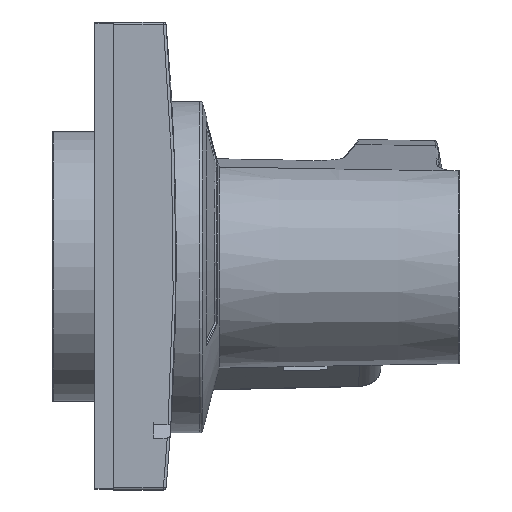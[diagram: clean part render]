
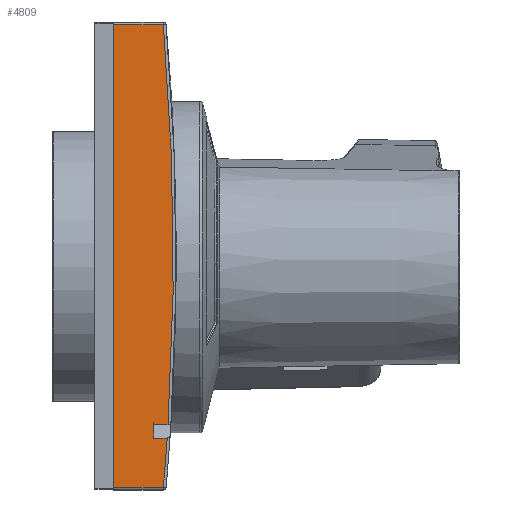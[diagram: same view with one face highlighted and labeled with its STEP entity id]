
A CAD part, left-side view. The second image highlights one B-rep face of the part: STEP entity #4809.
In plain terms, the highlighted planar face has unit normal (-1, 0, 0).
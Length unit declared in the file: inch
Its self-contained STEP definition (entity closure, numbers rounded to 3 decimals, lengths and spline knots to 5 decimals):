
#154=DIRECTION('',(0.,0.,1.));
#155=VECTOR('',#154,0.083);
#156=CARTESIAN_POINT('',(-0.04,-0.1889,-0.0395));
#157=LINE('',#156,#155);
#158=CARTESIAN_POINT('',(-0.04,0.28036,0.002));
#159=DIRECTION('',(1.,0.,0.));
#160=DIRECTION('',(0.,-0.996,0.086));
#161=AXIS2_PLACEMENT_3D('',#158,#159,#160);
#163=DIRECTION('',(0.,1.,0.));
#164=VECTOR('',#163,0.00258);
#165=CARTESIAN_POINT('',(-0.04,-0.19868,-0.02832));
#166=LINE('',#165,#164);
#167=DIRECTION('',(0.,0.,-1.));
#168=VECTOR('',#167,0.00235);
#169=CARTESIAN_POINT('',(-0.04,-0.1961,-0.02832));
#170=LINE('',#169,#168);
#171=DIRECTION('',(0.,-1.,0.));
#172=VECTOR('',#171,0.00243);
#173=CARTESIAN_POINT('',(-0.04,-0.1961,-0.03067));
#174=LINE('',#173,#172);
#175=CARTESIAN_POINT('',(-0.04,0.28036,0.002));
#176=DIRECTION('',(1.,0.,0.));
#177=DIRECTION('',(0.,-0.998,-0.068));
#178=AXIS2_PLACEMENT_3D('',#175,#176,#177);
#268=DIRECTION('',(0.,1.,0.));
#269=VECTOR('',#268,0.00894);
#270=CARTESIAN_POINT('',(-0.04,-0.19784,0.0435));
#271=LINE('',#270,#269);
#3633=DIRECTION('',(0.,-1.,0.));
#3634=VECTOR('',#3633,0.00894);
#3635=CARTESIAN_POINT('',(-0.04,-0.1889,-0.0395));
#3636=LINE('',#3635,#3634);
#3854=CARTESIAN_POINT('',(-0.04,-0.1961,-0.03067));
#3855=CARTESIAN_POINT('',(-0.04,-0.19853,
-0.03067));
#3856=VERTEX_POINT('',#3854);
#3857=VERTEX_POINT('',#3855);
#3875=CARTESIAN_POINT('',(-0.04,-0.1889,-0.0395));
#3876=CARTESIAN_POINT('',(-0.04,-0.1889,0.0435));
#3877=VERTEX_POINT('',#3875);
#3878=VERTEX_POINT('',#3876);
#3879=CARTESIAN_POINT('',(-0.04,-0.19784,0.0435));
#3880=VERTEX_POINT('',#3879);
#3881=CARTESIAN_POINT('',(-0.04,-0.19868,-0.02832));
#3882=VERTEX_POINT('',#3881);
#3883=CARTESIAN_POINT('',(-0.04,-0.1961,-0.02832));
#3884=VERTEX_POINT('',#3883);
#3885=CARTESIAN_POINT('',(-0.04,-0.19784,-0.0395));
#3886=VERTEX_POINT('',#3885);
#4787=CARTESIAN_POINT('',(-0.04,-0.2106,-0.04));
#4788=DIRECTION('',(-1.,0.,0.));
#4789=DIRECTION('',(0.,0.,1.));
#4790=AXIS2_PLACEMENT_3D('',#4787,#4788,#4789);
#4791=PLANE('',#4790);
#4793=ORIENTED_EDGE('',*,*,#4792,.T.);
#4795=ORIENTED_EDGE('',*,*,#4794,.F.);
#4797=ORIENTED_EDGE('',*,*,#4796,.T.);
#4799=ORIENTED_EDGE('',*,*,#4798,.T.);
#4801=ORIENTED_EDGE('',*,*,#4800,.T.);
#4802=ORIENTED_EDGE('',*,*,#4758,.T.);
#4804=ORIENTED_EDGE('',*,*,#4803,.T.);
#4806=ORIENTED_EDGE('',*,*,#4805,.F.);
#4807=EDGE_LOOP('',(#4793,#4795,#4797,#4799,#4801,#4802,#4804,#4806));
#4808=FACE_OUTER_BOUND('',#4807,.F.);
#4809=ADVANCED_FACE('',(#4808),#4791,.T.);
#162=CIRCLE('',#161,0.48);
#179=CIRCLE('',#178,0.48);
#4758=EDGE_CURVE('',#3856,#3857,#174,.T.);
#4792=EDGE_CURVE('',#3877,#3878,#157,.T.);
#4794=EDGE_CURVE('',#3880,#3878,#271,.T.);
#4796=EDGE_CURVE('',#3880,#3882,#162,.T.);
#4798=EDGE_CURVE('',#3882,#3884,#166,.T.);
#4800=EDGE_CURVE('',#3884,#3856,#170,.T.);
#4803=EDGE_CURVE('',#3857,#3886,#179,.T.);
#4805=EDGE_CURVE('',#3877,#3886,#3636,.T.);
